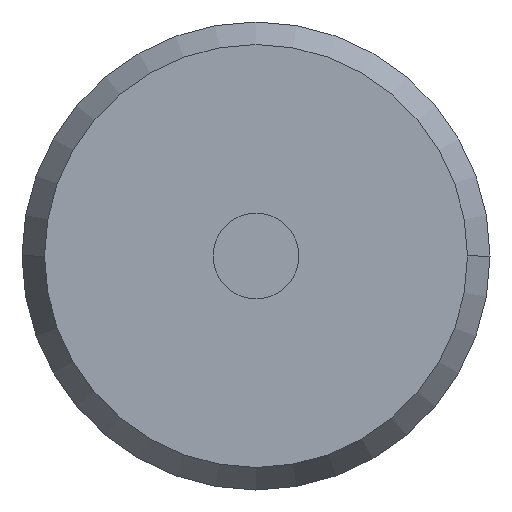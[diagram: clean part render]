
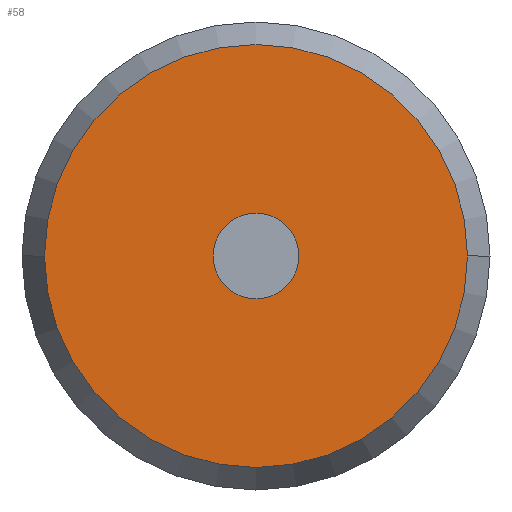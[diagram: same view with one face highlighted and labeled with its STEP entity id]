
A CAD part, front view. The second image highlights one B-rep face of the part: STEP entity #58.
In plain terms, the highlighted planar face has unit normal (0, -1, 0) as drawn and (0, 1, 0) by its records, which use the part's own axes.
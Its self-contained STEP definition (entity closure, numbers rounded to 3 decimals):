
#4 = CARTESIAN_POINT ( 'NONE',  ( 0., 10.964, 1.65 ) ) ;
#10 = DIRECTION ( 'NONE',  ( -1., 0., 0. ) ) ;
#19 = VERTEX_POINT ( 'NONE', #4 ) ;
#46 = DIRECTION ( 'NONE',  ( -1., 0., 0. ) ) ;
#56 = DIRECTION ( 'NONE',  ( -1., 0., 0. ) ) ;
#58 = ADVANCED_FACE ( 'NONE', ( #209, #416 ), #454, .T. ) ;
#87 = DIRECTION ( 'NONE',  ( 0., 0., 1. ) ) ;
#89 = AXIS2_PLACEMENT_3D ( 'NONE', #507, #308, #46 ) ;
#115 = CARTESIAN_POINT ( 'NONE',  ( 0., 10.964, -1.65 ) ) ;
#156 = EDGE_CURVE ( 'NONE', #19, #326, #535, .T. ) ;
#197 = CIRCLE ( 'NONE', #605, 8.134 ) ;
#208 = EDGE_CURVE ( 'NONE', #340, #380, #328, .T. ) ;
#209 = FACE_BOUND ( 'NONE', #542, .T. ) ;
#240 = CIRCLE ( 'NONE', #654, 1.65 ) ;
#243 = ORIENTED_EDGE ( 'NONE', *, *, #415, .T. ) ;
#248 = DIRECTION ( 'NONE',  ( 0., 1., 0. ) ) ;
#270 = CARTESIAN_POINT ( 'NONE',  ( 8.134, 10.964, 0. ) ) ;
#296 = DIRECTION ( 'NONE',  ( 0., 1., 0. ) ) ;
#308 = DIRECTION ( 'NONE',  ( 0., 1., 0. ) ) ;
#326 = VERTEX_POINT ( 'NONE', #115 ) ;
#328 = CIRCLE ( 'NONE', #641, 8.134 ) ;
#340 = VERTEX_POINT ( 'NONE', #270 ) ;
#347 = CARTESIAN_POINT ( 'NONE',  ( 0., 10.964, 0. ) ) ;
#361 = ORIENTED_EDGE ( 'NONE', *, *, #208, .T. ) ;
#369 = DIRECTION ( 'NONE',  ( 0., 1., 0. ) ) ;
#380 = VERTEX_POINT ( 'NONE', #477 ) ;
#415 = EDGE_CURVE ( 'NONE', #380, #340, #197, .T. ) ;
#416 = FACE_OUTER_BOUND ( 'NONE', #483, .T. ) ;
#418 = DIRECTION ( 'NONE',  ( 0., 1., 0. ) ) ;
#434 = ORIENTED_EDGE ( 'NONE', *, *, #156, .F. ) ;
#454 = PLANE ( 'NONE',  #89 ) ;
#477 = CARTESIAN_POINT ( 'NONE',  ( -8.134, 10.964, 0. ) ) ;
#483 = EDGE_LOOP ( 'NONE', ( #361, #243 ) ) ;
#492 = DIRECTION ( 'NONE',  ( 0., 0., 1. ) ) ;
#507 = CARTESIAN_POINT ( 'NONE',  ( 0., 10.964, 0. ) ) ;
#515 = CARTESIAN_POINT ( 'NONE',  ( 0., 10.964, 0. ) ) ;
#523 = EDGE_CURVE ( 'NONE', #326, #19, #240, .T. ) ;
#535 = CIRCLE ( 'NONE', #631, 1.65 ) ;
#540 = ORIENTED_EDGE ( 'NONE', *, *, #523, .F. ) ;
#542 = EDGE_LOOP ( 'NONE', ( #434, #540 ) ) ;
#605 = AXIS2_PLACEMENT_3D ( 'NONE', #630, #369, #10 ) ;
#630 = CARTESIAN_POINT ( 'NONE',  ( 0., 10.964, 0. ) ) ;
#631 = AXIS2_PLACEMENT_3D ( 'NONE', #647, #248, #87 ) ;
#641 = AXIS2_PLACEMENT_3D ( 'NONE', #515, #418, #56 ) ;
#647 = CARTESIAN_POINT ( 'NONE',  ( 0., 10.964, 0. ) ) ;
#654 = AXIS2_PLACEMENT_3D ( 'NONE', #347, #296, #492 ) ;
